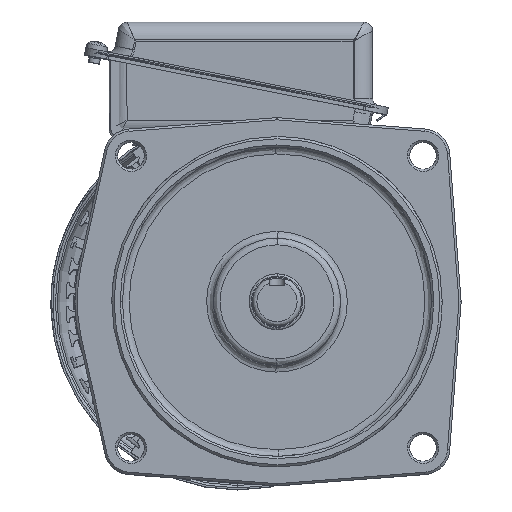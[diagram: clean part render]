
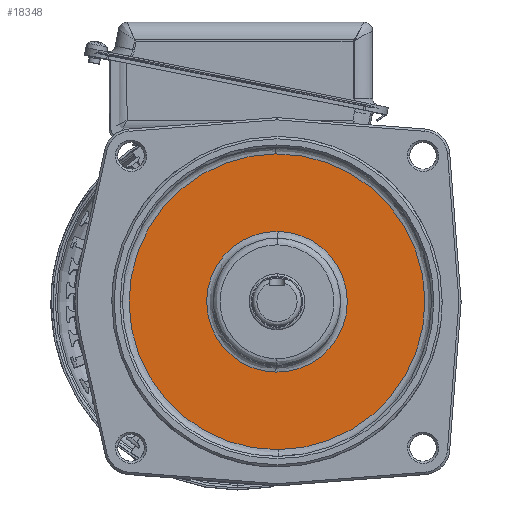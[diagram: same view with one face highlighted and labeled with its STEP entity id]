
A CAD part, top view. The second image highlights one B-rep face of the part: STEP entity #18348.
In plain terms, the highlighted planar face has unit normal (0, 0, 1) as drawn and (0, -1, 0) by its records, which use the part's own axes.
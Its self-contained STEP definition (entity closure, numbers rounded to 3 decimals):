
#5422 = DIRECTION ( 'NONE',  ( 1., 0., 0. ) ) ;
#5423 = DIRECTION ( 'NONE',  ( 0., -1., 0. ) ) ;
#5424 = CARTESIAN_POINT ( 'NONE',  ( 0., 1., 0. ) ) ;
#5425 = AXIS2_PLACEMENT_3D ( 'NONE', #5424, #5423, #5422 ) ;
#5426 = CIRCLE ( 'NONE', #5425, 31.5 ) ;
#5428 = CARTESIAN_POINT ( 'NONE',  ( 31.497, 1., -0.463 ) ) ;
#5434 = CARTESIAN_POINT ( 'NONE',  ( -31.497, 1., 0.463 ) ) ;
#7331 = CARTESIAN_POINT ( 'NONE',  ( 66.248, 1., 0.569 ) ) ;
#7757 = CARTESIAN_POINT ( 'NONE',  ( -66.248, 1., -0.569 ) ) ;
#15106 = DIRECTION ( 'NONE',  ( -1., 0., 0. ) ) ;
#15107 = DIRECTION ( 'NONE',  ( 0., 1., 0. ) ) ;
#15108 = CARTESIAN_POINT ( 'NONE',  ( 0., 1., 0. ) ) ;
#15109 = AXIS2_PLACEMENT_3D ( 'NONE', #15108, #15107, #15106 ) ;
#15110 = CIRCLE ( 'NONE', #15109, 66.25 ) ;
#18047 = EDGE_CURVE ( 'NONE', #51218, #51214, #33652, .T. ) ;
#18268 = EDGE_LOOP ( 'NONE', ( #18377, #18379 ) ) ;
#18348 = ADVANCED_FACE ( 'NONE', ( #34337, #34336 ), #34335, .T. ) ;
#18377 = ORIENTED_EDGE ( 'NONE', *, *, #18047, .F. ) ;
#18379 = ORIENTED_EDGE ( 'NONE', *, *, #51219, .F. ) ;
#18381 = EDGE_LOOP ( 'NONE', ( #18385, #18388 ) ) ;
#18385 = ORIENTED_EDGE ( 'NONE', *, *, #53997, .F. ) ;
#18388 = ORIENTED_EDGE ( 'NONE', *, *, #18389, .F. ) ;
#18389 = EDGE_CURVE ( 'NONE', #51926, #51815, #34416, .T. ) ;
#33648 = DIRECTION ( 'NONE',  ( 1., 0., 0. ) ) ;
#33649 = DIRECTION ( 'NONE',  ( 0., -1., 0. ) ) ;
#33650 = CARTESIAN_POINT ( 'NONE',  ( 0., 1., 0. ) ) ;
#33651 = AXIS2_PLACEMENT_3D ( 'NONE', #33650, #33649, #33648 ) ;
#33652 = CIRCLE ( 'NONE', #33651, 31.5 ) ;
#34330 = DIRECTION ( 'NONE',  ( 0., 0., -1. ) ) ;
#34331 = DIRECTION ( 'NONE',  ( 0., -1., 0. ) ) ;
#34332 = CARTESIAN_POINT ( 'NONE',  ( 0., 1., 0. ) ) ;
#34334 = AXIS2_PLACEMENT_3D ( 'NONE', #34332, #34331, #34330 ) ;
#34335 = PLANE ( 'NONE',  #34334 ) ;
#34336 = FACE_OUTER_BOUND ( 'NONE', #18381, .T. ) ;
#34337 = FACE_BOUND ( 'NONE', #18268, .T. ) ;
#34412 = DIRECTION ( 'NONE',  ( -1., 0., 0. ) ) ;
#34413 = DIRECTION ( 'NONE',  ( 0., 1., 0. ) ) ;
#34414 = CARTESIAN_POINT ( 'NONE',  ( 0., 1., 0. ) ) ;
#34415 = AXIS2_PLACEMENT_3D ( 'NONE', #34414, #34413, #34412 ) ;
#34416 = CIRCLE ( 'NONE', #34415, 66.25 ) ;
#51214 = VERTEX_POINT ( 'NONE', #5434 ) ;
#51218 = VERTEX_POINT ( 'NONE', #5428 ) ;
#51219 = EDGE_CURVE ( 'NONE', #51214, #51218, #5426, .T. ) ;
#51815 = VERTEX_POINT ( 'NONE', #7331 ) ;
#51926 = VERTEX_POINT ( 'NONE', #7757 ) ;
#53997 = EDGE_CURVE ( 'NONE', #51815, #51926, #15110, .T. ) ;
